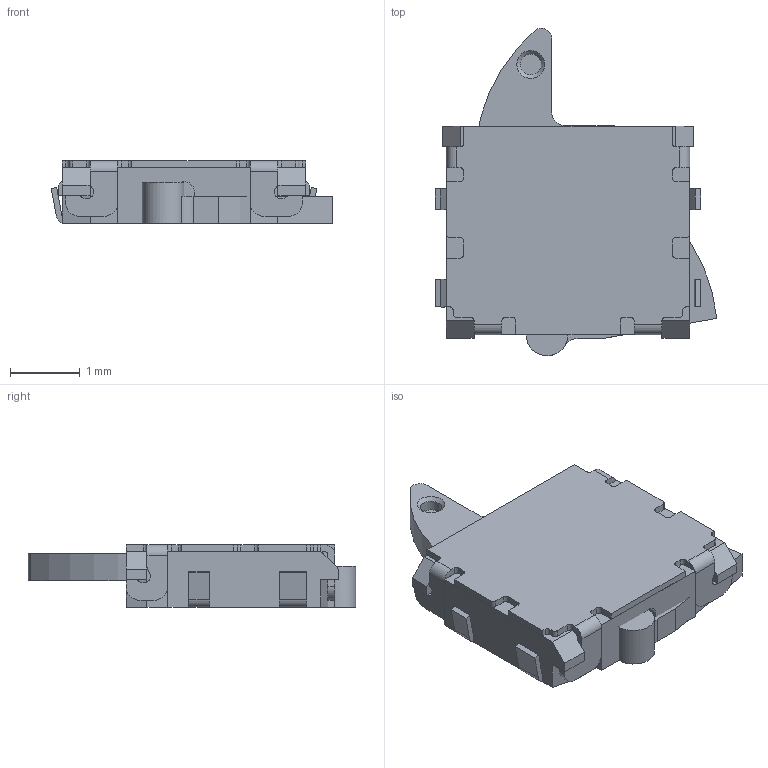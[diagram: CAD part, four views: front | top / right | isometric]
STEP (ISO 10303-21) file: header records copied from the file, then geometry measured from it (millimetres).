
FILE_DESCRIPTION( ( 'Unknown' ), '1' );
FILE_NAME( '//Ntcw022/edgesv/fsw/ユーザ提出用データ/ﾃﾞｨﾃｸﾀｰｽｲｯﾁ/ESE58/ese58l61a-std-sk.stp', 'Unknown', ( 'Unknown' ), ( 'Unknown' ), 'PSStep 10.0', 'Unknown', ' ' );
FILE_SCHEMA( ( 'AUTOMOTIVE_DESIGN { 1 0 10303 214 1 1 1 1 }' ) );
Length unit declared in the file: millimetre
Products named in the file (8): Assem1; sw-131-e58cs2la-nc-sk2; sw-131-e58ts2-sk; sw-131-e58lv3-L-sk; sw-131-e58fm5-sk
Bounding box: 4.05 x 4.7 x 0.9 mm (x, y, z)
Volume: 13.6 mm3; surface area: 140.1 mm2
Topology: 14 solids, 14 shells, 460 faces, 1276 edges, 848 vertices
Faces by surface type: plane 324, cylinder 134, cone 2
Full cylindrical faces by diameter (mm): 0.01 x2, 0.3 x2, 0.6 x2, 0.65 x2
Entity records: 9252 total; most frequent: CARTESIAN_POINT 1289, ORIENTED_EDGE 1260, DIRECTION 1243, EDGE_CURVE 630, LINE 493, VECTOR 493, VERTEX_POINT 421, AXIS2_PLACEMENT_3D 375
